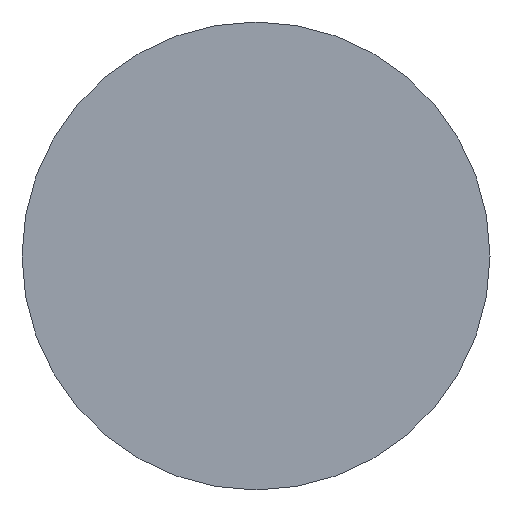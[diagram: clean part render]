
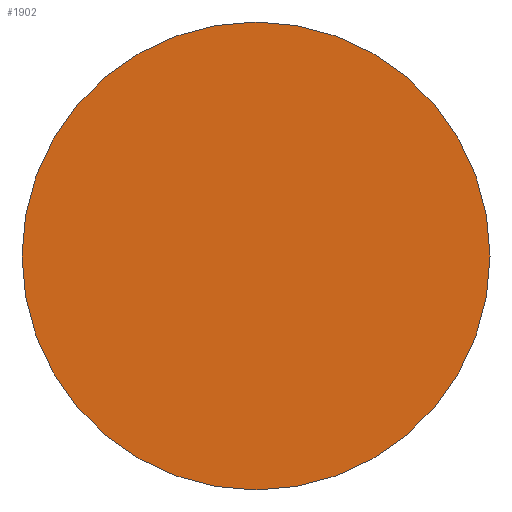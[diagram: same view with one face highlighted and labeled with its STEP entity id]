
A CAD part, front view. The second image highlights one B-rep face of the part: STEP entity #1902.
In plain terms, the highlighted planar face has unit normal (0, -1, 0).
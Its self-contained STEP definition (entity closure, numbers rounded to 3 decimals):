
#225 = FACE_OUTER_BOUND ( 'NONE', #2164, .T. ) ;
#332 = CARTESIAN_POINT ( 'NONE',  ( -41., -30., 0. ) ) ;
#457 = AXIS2_PLACEMENT_3D ( 'NONE', #4051, #2675, #1318 ) ;
#754 = DIRECTION ( 'NONE',  ( 1., 0., 0. ) ) ;
#757 = EDGE_CURVE ( 'NONE', #3076, #3022, #2445, .T. ) ;
#1318 = DIRECTION ( 'NONE',  ( 1., 0., 0. ) ) ;
#1749 = CARTESIAN_POINT ( 'NONE',  ( 41., -30., 0. ) ) ;
#1902 = ADVANCED_FACE ( 'NONE', ( #225 ), #4012, .T. ) ;
#2071 = ORIENTED_EDGE ( 'NONE', *, *, #3942, .T. ) ;
#2164 = EDGE_LOOP ( 'NONE', ( #3807, #2071 ) ) ;
#2445 = CIRCLE ( 'NONE', #3679, 41. ) ;
#2675 = DIRECTION ( 'NONE',  ( 0., -1., 0. ) ) ;
#2766 = CARTESIAN_POINT ( 'NONE',  ( 41., -30., 0. ) ) ;
#3004 = AXIS2_PLACEMENT_3D ( 'NONE', #1749, #3012, #754 ) ;
#3012 = DIRECTION ( 'NONE',  ( 0., -1., 0. ) ) ;
#3022 = VERTEX_POINT ( 'NONE', #332 ) ;
#3076 = VERTEX_POINT ( 'NONE', #2766 ) ;
#3500 = CIRCLE ( 'NONE', #457, 41. ) ;
#3679 = AXIS2_PLACEMENT_3D ( 'NONE', #4231, #3911, #4153 ) ;
#3807 = ORIENTED_EDGE ( 'NONE', *, *, #757, .T. ) ;
#3911 = DIRECTION ( 'NONE',  ( 0., -1., 0. ) ) ;
#3942 = EDGE_CURVE ( 'NONE', #3022, #3076, #3500, .T. ) ;
#4012 = PLANE ( 'NONE',  #3004 ) ;
#4051 = CARTESIAN_POINT ( 'NONE',  ( 0., -30., 0. ) ) ;
#4153 = DIRECTION ( 'NONE',  ( 1., 0., 0. ) ) ;
#4231 = CARTESIAN_POINT ( 'NONE',  ( 0., -30., 0. ) ) ;
